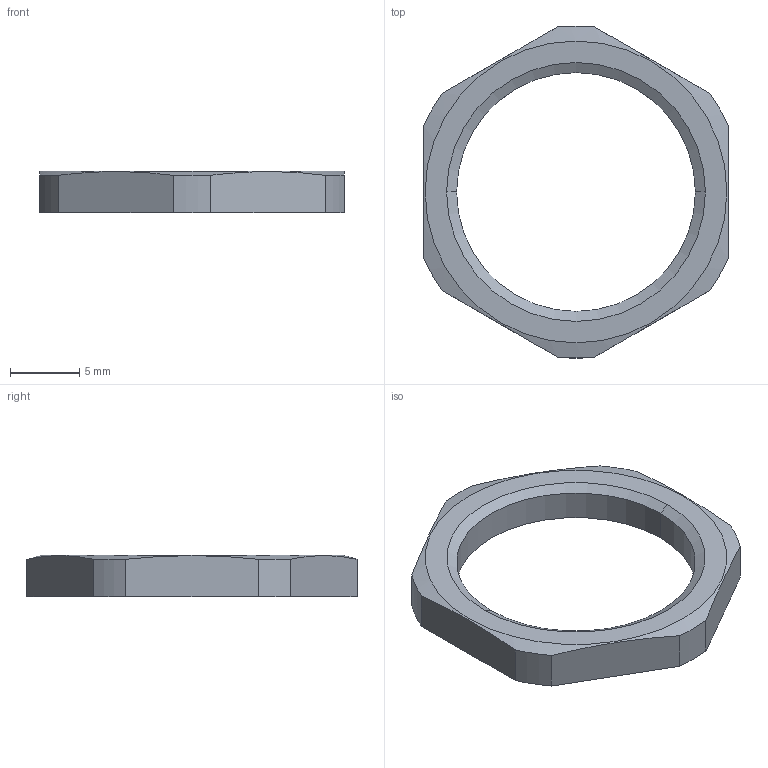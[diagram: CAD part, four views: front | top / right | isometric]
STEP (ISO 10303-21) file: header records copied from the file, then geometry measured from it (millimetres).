
FILE_DESCRIPTION (( 'STEP AP203' ), '1' );
FILE_NAME ('129211.STEP', '2006-11-03T09:35:41', ( ' ' ), ( '' ), 'SwSTEP 2.0', 'SolidWorks 2005278', '' );
FILE_SCHEMA (( 'CONFIG_CONTROL_DESIGN' ));
Length unit declared in the file: millimetre
Products named in the file (1): 129211
Bounding box: 22 x 23.98 x 3 mm (x, y, z)
Volume: 517.4 mm3; surface area: 703.9 mm2
Topology: 1 solids, 1 shells, 59 faces, 158 edges, 104 vertices
Faces by surface type: plane 45, cylinder 8, cone 6
Entity records: 1915 total; most frequent: CARTESIAN_POINT 350, ORIENTED_EDGE 316, DIRECTION 292, EDGE_CURVE 158, VECTOR 128, LINE 128, VERTEX_POINT 104, AXIS2_PLACEMENT_3D 82
